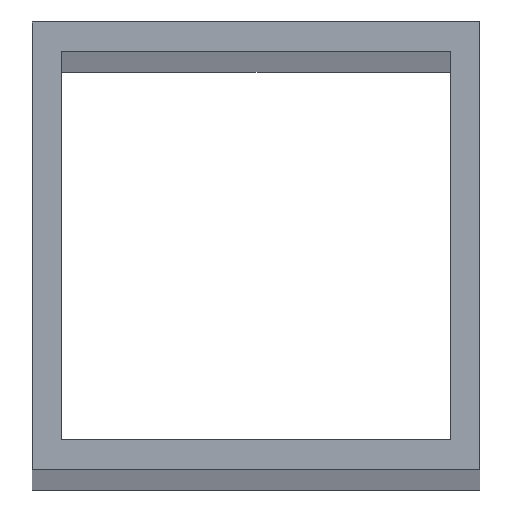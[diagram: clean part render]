
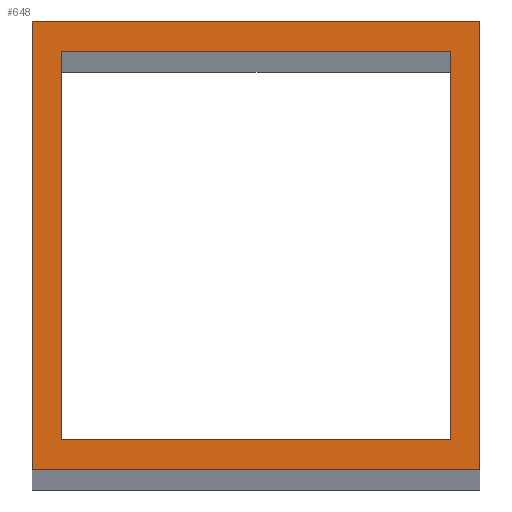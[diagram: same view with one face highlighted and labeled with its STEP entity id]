
A CAD part, top view. The second image highlights one B-rep face of the part: STEP entity #648.
In plain terms, the highlighted planar face has unit normal (0, 0, 1).
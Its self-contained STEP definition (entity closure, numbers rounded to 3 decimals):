
#24 = VERTEX_POINT('',#25);
#25 = CARTESIAN_POINT('',(30.,-30.,1550.));
#32 = PLANE('',#33);
#33 = AXIS2_PLACEMENT_3D('',#34,#35,#36);
#34 = CARTESIAN_POINT('',(30.,-30.,0.));
#35 = DIRECTION('',(-0.,1.,-0.));
#36 = DIRECTION('',(1.,0.,0.));
#44 = PLANE('',#45);
#45 = AXIS2_PLACEMENT_3D('',#46,#47,#48);
#46 = CARTESIAN_POINT('',(30.,30.,0.));
#47 = DIRECTION('',(-1.,-0.,-0.));
#48 = DIRECTION('',(0.,1.,0.));
#56 = EDGE_CURVE('',#24,#57,#59,.T.);
#57 = VERTEX_POINT('',#58);
#58 = CARTESIAN_POINT('',(-30.,-30.,1550.));
#59 = SURFACE_CURVE('',#60,(#64,#71),.PCURVE_S1.);
#60 = LINE('',#61,#62);
#61 = CARTESIAN_POINT('',(30.,-30.,1550.));
#62 = VECTOR('',#63,1.);
#63 = DIRECTION('',(-1.,-0.,-0.));
#64 = PCURVE('',#32,#65);
#65 = DEFINITIONAL_REPRESENTATION('',(#66),#70);
#66 = LINE('',#67,#68);
#67 = CARTESIAN_POINT('',(-0.,-1550.));
#68 = VECTOR('',#69,1.);
#69 = DIRECTION('',(-1.,0.));
#70 = ( GEOMETRIC_REPRESENTATION_CONTEXT(2) 
PARAMETRIC_REPRESENTATION_CONTEXT() REPRESENTATION_CONTEXT('2D SPACE',''
  ) );
#71 = PCURVE('',#72,#77);
#72 = PLANE('',#73);
#73 = AXIS2_PLACEMENT_3D('',#74,#75,#76);
#74 = CARTESIAN_POINT('',(0.,0.,1550.));
#75 = DIRECTION('',(-0.,-0.,1.));
#76 = DIRECTION('',(1.,0.,0.));
#77 = DEFINITIONAL_REPRESENTATION('',(#78),#82);
#78 = LINE('',#79,#80);
#79 = CARTESIAN_POINT('',(30.,-30.));
#80 = VECTOR('',#81,1.);
#81 = DIRECTION('',(-1.,0.));
#82 = ( GEOMETRIC_REPRESENTATION_CONTEXT(2) 
PARAMETRIC_REPRESENTATION_CONTEXT() REPRESENTATION_CONTEXT('2D SPACE',''
  ) );
#100 = PLANE('',#101);
#101 = AXIS2_PLACEMENT_3D('',#102,#103,#104);
#102 = CARTESIAN_POINT('',(-30.,-30.,0.));
#103 = DIRECTION('',(1.,-0.,-0.));
#104 = DIRECTION('',(0.,-1.,0.));
#142 = EDGE_CURVE('',#57,#143,#145,.T.);
#143 = VERTEX_POINT('',#144);
#144 = CARTESIAN_POINT('',(-30.,30.,1550.));
#145 = SURFACE_CURVE('',#146,(#150,#157),.PCURVE_S1.);
#146 = LINE('',#147,#148);
#147 = CARTESIAN_POINT('',(-30.,-30.,1550.));
#148 = VECTOR('',#149,1.);
#149 = DIRECTION('',(-0.,1.,-0.));
#150 = PCURVE('',#100,#151);
#151 = DEFINITIONAL_REPRESENTATION('',(#152),#156);
#152 = LINE('',#153,#154);
#153 = CARTESIAN_POINT('',(-0.,-1550.));
#154 = VECTOR('',#155,1.);
#155 = DIRECTION('',(-1.,0.));
#156 = ( GEOMETRIC_REPRESENTATION_CONTEXT(2) 
PARAMETRIC_REPRESENTATION_CONTEXT() REPRESENTATION_CONTEXT('2D SPACE',''
  ) );
#157 = PCURVE('',#72,#158);
#158 = DEFINITIONAL_REPRESENTATION('',(#159),#163);
#159 = LINE('',#160,#161);
#160 = CARTESIAN_POINT('',(-30.,-30.));
#161 = VECTOR('',#162,1.);
#162 = DIRECTION('',(-0.,1.));
#163 = ( GEOMETRIC_REPRESENTATION_CONTEXT(2) 
PARAMETRIC_REPRESENTATION_CONTEXT() REPRESENTATION_CONTEXT('2D SPACE',''
  ) );
#181 = PLANE('',#182);
#182 = AXIS2_PLACEMENT_3D('',#183,#184,#185);
#183 = CARTESIAN_POINT('',(-30.,30.,0.));
#184 = DIRECTION('',(-0.,-1.,-0.));
#185 = DIRECTION('',(-1.,0.,0.));
#218 = EDGE_CURVE('',#143,#219,#221,.T.);
#219 = VERTEX_POINT('',#220);
#220 = CARTESIAN_POINT('',(30.,30.,1550.));
#221 = SURFACE_CURVE('',#222,(#226,#233),.PCURVE_S1.);
#222 = LINE('',#223,#224);
#223 = CARTESIAN_POINT('',(-30.,30.,1550.));
#224 = VECTOR('',#225,1.);
#225 = DIRECTION('',(1.,-0.,-0.));
#226 = PCURVE('',#181,#227);
#227 = DEFINITIONAL_REPRESENTATION('',(#228),#232);
#228 = LINE('',#229,#230);
#229 = CARTESIAN_POINT('',(-0.,-1550.));
#230 = VECTOR('',#231,1.);
#231 = DIRECTION('',(-1.,0.));
#232 = ( GEOMETRIC_REPRESENTATION_CONTEXT(2) 
PARAMETRIC_REPRESENTATION_CONTEXT() REPRESENTATION_CONTEXT('2D SPACE',''
  ) );
#233 = PCURVE('',#72,#234);
#234 = DEFINITIONAL_REPRESENTATION('',(#235),#239);
#235 = LINE('',#236,#237);
#236 = CARTESIAN_POINT('',(-30.,30.));
#237 = VECTOR('',#238,1.);
#238 = DIRECTION('',(1.,-0.));
#239 = ( GEOMETRIC_REPRESENTATION_CONTEXT(2) 
PARAMETRIC_REPRESENTATION_CONTEXT() REPRESENTATION_CONTEXT('2D SPACE',''
  ) );
#289 = EDGE_CURVE('',#219,#24,#290,.T.);
#290 = SURFACE_CURVE('',#291,(#295,#302),.PCURVE_S1.);
#291 = LINE('',#292,#293);
#292 = CARTESIAN_POINT('',(30.,30.,1550.));
#293 = VECTOR('',#294,1.);
#294 = DIRECTION('',(-0.,-1.,-0.));
#295 = PCURVE('',#44,#296);
#296 = DEFINITIONAL_REPRESENTATION('',(#297),#301);
#297 = LINE('',#298,#299);
#298 = CARTESIAN_POINT('',(-0.,-1550.));
#299 = VECTOR('',#300,1.);
#300 = DIRECTION('',(-1.,0.));
#301 = ( GEOMETRIC_REPRESENTATION_CONTEXT(2) 
PARAMETRIC_REPRESENTATION_CONTEXT() REPRESENTATION_CONTEXT('2D SPACE',''
  ) );
#302 = PCURVE('',#72,#303);
#303 = DEFINITIONAL_REPRESENTATION('',(#304),#308);
#304 = LINE('',#305,#306);
#305 = CARTESIAN_POINT('',(30.,30.));
#306 = VECTOR('',#307,1.);
#307 = DIRECTION('',(-0.,-1.));
#308 = ( GEOMETRIC_REPRESENTATION_CONTEXT(2) 
PARAMETRIC_REPRESENTATION_CONTEXT() REPRESENTATION_CONTEXT('2D SPACE',''
  ) );
#338 = VERTEX_POINT('',#339);
#339 = CARTESIAN_POINT('',(26.,-26.,1550.));
#346 = PLANE('',#347);
#347 = AXIS2_PLACEMENT_3D('',#348,#349,#350);
#348 = CARTESIAN_POINT('',(26.,-26.,0.));
#349 = DIRECTION('',(-0.,1.,-0.));
#350 = DIRECTION('',(1.,0.,0.));
#358 = PLANE('',#359);
#359 = AXIS2_PLACEMENT_3D('',#360,#361,#362);
#360 = CARTESIAN_POINT('',(26.,26.,0.));
#361 = DIRECTION('',(-1.,-0.,-0.));
#362 = DIRECTION('',(0.,1.,0.));
#370 = EDGE_CURVE('',#338,#371,#373,.T.);
#371 = VERTEX_POINT('',#372);
#372 = CARTESIAN_POINT('',(-26.,-26.,1550.));
#373 = SURFACE_CURVE('',#374,(#378,#385),.PCURVE_S1.);
#374 = LINE('',#375,#376);
#375 = CARTESIAN_POINT('',(26.,-26.,1550.));
#376 = VECTOR('',#377,1.);
#377 = DIRECTION('',(-1.,-0.,-0.));
#378 = PCURVE('',#346,#379);
#379 = DEFINITIONAL_REPRESENTATION('',(#380),#384);
#380 = LINE('',#381,#382);
#381 = CARTESIAN_POINT('',(-0.,-1550.));
#382 = VECTOR('',#383,1.);
#383 = DIRECTION('',(-1.,0.));
#384 = ( GEOMETRIC_REPRESENTATION_CONTEXT(2) 
PARAMETRIC_REPRESENTATION_CONTEXT() REPRESENTATION_CONTEXT('2D SPACE',''
  ) );
#385 = PCURVE('',#72,#386);
#386 = DEFINITIONAL_REPRESENTATION('',(#387),#391);
#387 = LINE('',#388,#389);
#388 = CARTESIAN_POINT('',(26.,-26.));
#389 = VECTOR('',#390,1.);
#390 = DIRECTION('',(-1.,0.));
#391 = ( GEOMETRIC_REPRESENTATION_CONTEXT(2) 
PARAMETRIC_REPRESENTATION_CONTEXT() REPRESENTATION_CONTEXT('2D SPACE',''
  ) );
#409 = PLANE('',#410);
#410 = AXIS2_PLACEMENT_3D('',#411,#412,#413);
#411 = CARTESIAN_POINT('',(-26.,-26.,0.));
#412 = DIRECTION('',(1.,-0.,-0.));
#413 = DIRECTION('',(0.,-1.,0.));
#446 = EDGE_CURVE('',#371,#447,#449,.T.);
#447 = VERTEX_POINT('',#448);
#448 = CARTESIAN_POINT('',(-26.,26.,1550.));
#449 = SURFACE_CURVE('',#450,(#454,#461),.PCURVE_S1.);
#450 = LINE('',#451,#452);
#451 = CARTESIAN_POINT('',(-26.,-26.,1550.));
#452 = VECTOR('',#453,1.);
#453 = DIRECTION('',(-0.,1.,-0.));
#454 = PCURVE('',#409,#455);
#455 = DEFINITIONAL_REPRESENTATION('',(#456),#460);
#456 = LINE('',#457,#458);
#457 = CARTESIAN_POINT('',(-0.,-1550.));
#458 = VECTOR('',#459,1.);
#459 = DIRECTION('',(-1.,0.));
#460 = ( GEOMETRIC_REPRESENTATION_CONTEXT(2) 
PARAMETRIC_REPRESENTATION_CONTEXT() REPRESENTATION_CONTEXT('2D SPACE',''
  ) );
#461 = PCURVE('',#72,#462);
#462 = DEFINITIONAL_REPRESENTATION('',(#463),#467);
#463 = LINE('',#464,#465);
#464 = CARTESIAN_POINT('',(-26.,-26.));
#465 = VECTOR('',#466,1.);
#466 = DIRECTION('',(-0.,1.));
#467 = ( GEOMETRIC_REPRESENTATION_CONTEXT(2) 
PARAMETRIC_REPRESENTATION_CONTEXT() REPRESENTATION_CONTEXT('2D SPACE',''
  ) );
#485 = PLANE('',#486);
#486 = AXIS2_PLACEMENT_3D('',#487,#488,#489);
#487 = CARTESIAN_POINT('',(-26.,26.,0.));
#488 = DIRECTION('',(-0.,-1.,-0.));
#489 = DIRECTION('',(-1.,0.,0.));
#522 = EDGE_CURVE('',#447,#523,#525,.T.);
#523 = VERTEX_POINT('',#524);
#524 = CARTESIAN_POINT('',(26.,26.,1550.));
#525 = SURFACE_CURVE('',#526,(#530,#537),.PCURVE_S1.);
#526 = LINE('',#527,#528);
#527 = CARTESIAN_POINT('',(-26.,26.,1550.));
#528 = VECTOR('',#529,1.);
#529 = DIRECTION('',(1.,-0.,-0.));
#530 = PCURVE('',#485,#531);
#531 = DEFINITIONAL_REPRESENTATION('',(#532),#536);
#532 = LINE('',#533,#534);
#533 = CARTESIAN_POINT('',(-0.,-1550.));
#534 = VECTOR('',#535,1.);
#535 = DIRECTION('',(-1.,0.));
#536 = ( GEOMETRIC_REPRESENTATION_CONTEXT(2) 
PARAMETRIC_REPRESENTATION_CONTEXT() REPRESENTATION_CONTEXT('2D SPACE',''
  ) );
#537 = PCURVE('',#72,#538);
#538 = DEFINITIONAL_REPRESENTATION('',(#539),#543);
#539 = LINE('',#540,#541);
#540 = CARTESIAN_POINT('',(-26.,26.));
#541 = VECTOR('',#542,1.);
#542 = DIRECTION('',(1.,-0.));
#543 = ( GEOMETRIC_REPRESENTATION_CONTEXT(2) 
PARAMETRIC_REPRESENTATION_CONTEXT() REPRESENTATION_CONTEXT('2D SPACE',''
  ) );
#593 = EDGE_CURVE('',#523,#338,#594,.T.);
#594 = SURFACE_CURVE('',#595,(#599,#606),.PCURVE_S1.);
#595 = LINE('',#596,#597);
#596 = CARTESIAN_POINT('',(26.,26.,1550.));
#597 = VECTOR('',#598,1.);
#598 = DIRECTION('',(-0.,-1.,-0.));
#599 = PCURVE('',#358,#600);
#600 = DEFINITIONAL_REPRESENTATION('',(#601),#605);
#601 = LINE('',#602,#603);
#602 = CARTESIAN_POINT('',(-0.,-1550.));
#603 = VECTOR('',#604,1.);
#604 = DIRECTION('',(-1.,0.));
#605 = ( GEOMETRIC_REPRESENTATION_CONTEXT(2) 
PARAMETRIC_REPRESENTATION_CONTEXT() REPRESENTATION_CONTEXT('2D SPACE',''
  ) );
#606 = PCURVE('',#72,#607);
#607 = DEFINITIONAL_REPRESENTATION('',(#608),#612);
#608 = LINE('',#609,#610);
#609 = CARTESIAN_POINT('',(26.,26.));
#610 = VECTOR('',#611,1.);
#611 = DIRECTION('',(-0.,-1.));
#612 = ( GEOMETRIC_REPRESENTATION_CONTEXT(2) 
PARAMETRIC_REPRESENTATION_CONTEXT() REPRESENTATION_CONTEXT('2D SPACE',''
  ) );
#648 = ADVANCED_FACE('',(#649,#655),#72,.T.);
#649 = FACE_BOUND('',#650,.F.);
#650 = EDGE_LOOP('',(#651,#652,#653,#654));
#651 = ORIENTED_EDGE('',*,*,#56,.T.);
#652 = ORIENTED_EDGE('',*,*,#142,.T.);
#653 = ORIENTED_EDGE('',*,*,#218,.T.);
#654 = ORIENTED_EDGE('',*,*,#289,.T.);
#655 = FACE_BOUND('',#656,.T.);
#656 = EDGE_LOOP('',(#657,#658,#659,#660));
#657 = ORIENTED_EDGE('',*,*,#370,.T.);
#658 = ORIENTED_EDGE('',*,*,#446,.T.);
#659 = ORIENTED_EDGE('',*,*,#522,.T.);
#660 = ORIENTED_EDGE('',*,*,#593,.T.);
